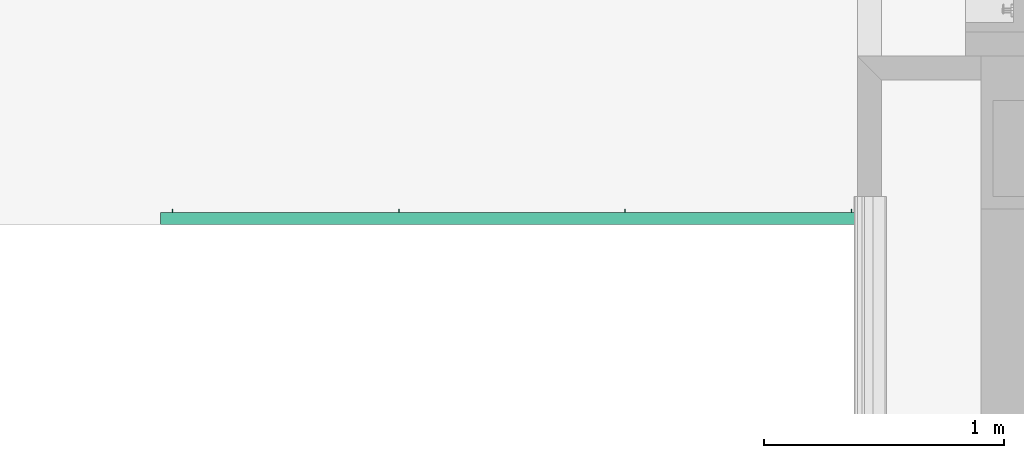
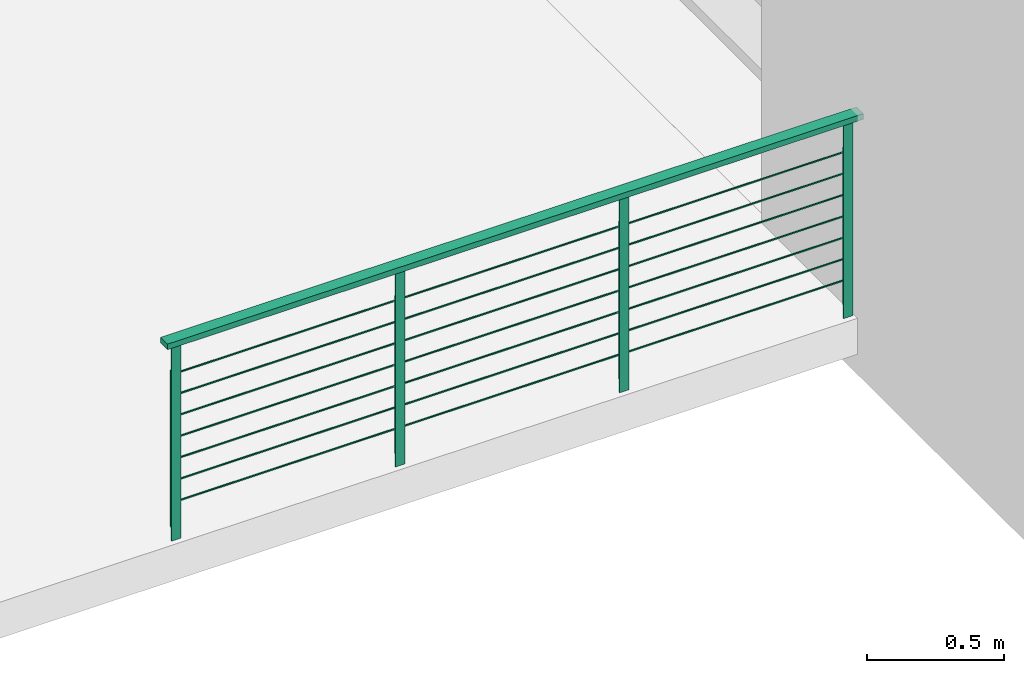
# One storey, part 16 of 26: 1 distribution element.
"""IFC2X3 building model written with IfcOpenShell, lengths in millimetres."""

from ifc_helpers import new_model, entity, si_unit, converted_unit, money_unit, direction, frame, origin_with_axes, place, context, subcontext, project, spatial, faceted_brep, material, type_object, element, save


model = new_model("IFC2X3")

# Units and contexts
model_context = context("Model", 3, precision=1e-05, world=origin_with_axes(), true_north=direction((0.0, 1.0)))
body_context = subcontext(model_context, "Body", "Model", "MODEL_VIEW")
ifc_project = project(units=[si_unit("LENGTHUNIT", "METRE", prefix="MILLI"), si_unit("AREAUNIT", "SQUARE_METRE"), si_unit("VOLUMEUNIT", "CUBIC_METRE"), converted_unit("PLANEANGLEUNIT", "DEGREE", entity("IfcPlaneAngleMeasure", 0.0174532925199), si_unit("PLANEANGLEUNIT", "RADIAN"), dimensions=[0, 0, 0, 0, 0, 0, 0]), si_unit("SOLIDANGLEUNIT", "STERADIAN"), money_unit("USD"), converted_unit("TIMEUNIT", "Year", entity("IfcTimeMeasure", 31556926.0), si_unit("TIMEUNIT", "SECOND"), dimensions=[0, 0, 0, 0, 0, 0, 0]), si_unit("MASSUNIT", "GRAM"), si_unit("THERMODYNAMICTEMPERATUREUNIT", "DEGREE_CELSIUS"), si_unit("LUMINOUSINTENSITYUNIT", "LUMEN")], contexts=[model_context])

# Site, building, storey
site_placement = place(None, origin_with_axes())
site = spatial("IfcSite", under=ifc_project, at=site_placement, Name="Grove Residential", CompositionType="ELEMENT")
building_placement = place(site_placement, origin_with_axes())
building = spatial("IfcBuilding", under=site, at=building_placement, Name="Building", CompositionType="ELEMENT")
storey_placement = place(building_placement, origin_with_axes())
storey = spatial("IfcBuildingStorey", under=building, at=storey_placement, Name="Ground Floor", CompositionType="ELEMENT", Elevation=0.0)

# Distribution element
ifc_material = material(Name="Background")
distribution_element_type = type_object("IfcDistributionElementType", Name="Rail Wired 02 20")
distribution_element_placement = place(storey_placement, frame((25.0, 1375.00009686, -50.0), z_axis=(0.0, 0.0, 1.0), x_axis=(-1.0, 0.0, 0.0)))
element("IfcDistributionElement", 1, at=distribution_element_placement, inside=storey, type_object=distribution_element_type, material=ifc_material, Name="FU - 001", context=body_context, shape_type="Brep", body=[
    faceted_brep([(0.0, 25.0, 875.0), (0.0, -25.0, 875.0), (0.0, -25.0, 900.0), (0.0, 25.0, 900.0), (2925.0, 25.0, 875.0), (2925.0, -25.0, 875.0), (2925.0, -25.0, 900.0), (2925.0, 25.0, 900.0)], [[[0, 1, 2, 3]], [[0, 4, 5, 1]], [[1, 5, 6, 2]], [[3, 2, 6, 7]], [[4, 0, 3, 7]], [[5, 4, 7, 6]]]),
    faceted_brep([(30.0, -2.0, 0.0), (70.0, -2.0, 0.0), (70.0, -2.0, 871.0), (30.0, -2.0, 871.0), (30.0, 2.0, 0.0), (70.0, 2.0, 0.0), (70.0, 2.0, 871.0), (30.0, 2.0, 871.0)], [[[0, 1, 2, 3]], [[0, 4, 5, 1]], [[1, 5, 6, 2]], [[3, 2, 6, 7]], [[4, 0, 3, 7]], [[5, 4, 7, 6]]]),
    faceted_brep([(52.0, -38.0, 36.0), (52.0, -38.0, 731.0), (48.0, -38.0, 731.0), (48.0, -38.0, 36.0), (52.0, -2.0, 0.0), (52.0, -2.0, 767.0), (48.0, -2.0, 767.0), (48.0, -2.0, 0.0)], [[[0, 1, 2, 3]], [[0, 4, 5, 1]], [[1, 5, 6, 2]], [[3, 2, 6, 7]], [[4, 0, 3, 7]], [[5, 4, 7, 6]]]),
    faceted_brep([(971.666666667, -2.0, 0.0), (1011.66666667, -2.0, 0.0), (1011.66666667, -2.0, 871.0), (971.666666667, -2.0, 871.0), (971.666666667, 2.0, 0.0), (1011.66666667, 2.0, 0.0), (1011.66666667, 2.0, 871.0), (971.666666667, 2.0, 871.0)], [[[0, 1, 2, 3]], [[0, 4, 5, 1]], [[1, 5, 6, 2]], [[3, 2, 6, 7]], [[4, 0, 3, 7]], [[5, 4, 7, 6]]]),
    faceted_brep([(993.666666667, -38.0, 36.0), (993.666666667, -38.0, 731.0), (989.666666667, -38.0, 731.0), (989.666666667, -38.0, 36.0), (993.666666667, -2.0, 0.0), (993.666666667, -2.0, 767.0), (989.666666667, -2.0, 767.0), (989.666666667, -2.0, 0.0)], [[[0, 1, 2, 3]], [[0, 4, 5, 1]], [[1, 5, 6, 2]], [[3, 2, 6, 7]], [[4, 0, 3, 7]], [[5, 4, 7, 6]]]),
    faceted_brep([(1913.33333333, -2.0, 0.0), (1953.33333333, -2.0, 0.0), (1953.33333333, -2.0, 871.0), (1913.33333333, -2.0, 871.0), (1913.33333333, 2.0, 0.0), (1953.33333333, 2.0, 0.0), (1953.33333333, 2.0, 871.0), (1913.33333333, 2.0, 871.0)], [[[0, 1, 2, 3]], [[0, 4, 5, 1]], [[1, 5, 6, 2]], [[3, 2, 6, 7]], [[4, 0, 3, 7]], [[5, 4, 7, 6]]]),
    faceted_brep([(1935.33333333, -38.0, 36.0), (1935.33333333, -38.0, 731.0), (1931.33333333, -38.0, 731.0), (1931.33333333, -38.0, 36.0), (1935.33333333, -2.0, 0.0), (1935.33333333, -2.0, 767.0), (1931.33333333, -2.0, 767.0), (1931.33333333, -2.0, 0.0)], [[[0, 1, 2, 3]], [[0, 4, 5, 1]], [[1, 5, 6, 2]], [[3, 2, 6, 7]], [[4, 0, 3, 7]], [[5, 4, 7, 6]]]),
    faceted_brep([(2855.0, -2.0, 0.0), (2895.0, -2.0, 0.0), (2895.0, -2.0, 871.0), (2855.0, -2.0, 871.0), (2855.0, 2.0, 0.0), (2895.0, 2.0, 0.0), (2895.0, 2.0, 871.0), (2855.0, 2.0, 871.0)], [[[0, 1, 2, 3]], [[0, 4, 5, 1]], [[1, 5, 6, 2]], [[3, 2, 6, 7]], [[4, 0, 3, 7]], [[5, 4, 7, 6]]]),
    faceted_brep([(2877.0, -38.0, 36.0), (2877.0, -38.0, 731.0), (2873.0, -38.0, 731.0), (2873.0, -38.0, 36.0), (2877.0, -2.0, 0.0), (2877.0, -2.0, 767.0), (2873.0, -2.0, 767.0), (2873.0, -2.0, 0.0)], [[[0, 1, 2, 3]], [[0, 4, 5, 1]], [[1, 5, 6, 2]], [[3, 2, 6, 7]], [[4, 0, 3, 7]], [[5, 4, 7, 6]]]),
    faceted_brep([(20.0, -15.0, 871.0), (80.0, -15.0, 871.0), (80.0, -15.0, 875.0), (20.0, -15.0, 875.0), (20.0, 15.0, 871.0), (80.0, 15.0, 871.0), (80.0, 15.0, 875.0), (20.0, 15.0, 875.0)], [[[0, 1, 2, 3]], [[0, 4, 5, 1]], [[1, 5, 6, 2]], [[3, 2, 6, 7]], [[4, 0, 3, 7]], [[5, 4, 7, 6]]]),
    faceted_brep([(961.666666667, -15.0, 871.0), (1021.66666667, -15.0, 871.0), (1021.66666667, -15.0, 875.0), (961.666666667, -15.0, 875.0), (961.666666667, 15.0, 871.0), (1021.66666667, 15.0, 871.0), (1021.66666667, 15.0, 875.0), (961.666666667, 15.0, 875.0)], [[[0, 1, 2, 3]], [[0, 4, 5, 1]], [[1, 5, 6, 2]], [[3, 2, 6, 7]], [[4, 0, 3, 7]], [[5, 4, 7, 6]]]),
    faceted_brep([(1903.33333333, -15.0, 871.0), (1963.33333333, -15.0, 871.0), (1963.33333333, -15.0, 875.0), (1903.33333333, -15.0, 875.0), (1903.33333333, 15.0, 871.0), (1963.33333333, 15.0, 871.0), (1963.33333333, 15.0, 875.0), (1903.33333333, 15.0, 875.0)], [[[0, 1, 2, 3]], [[0, 4, 5, 1]], [[1, 5, 6, 2]], [[3, 2, 6, 7]], [[4, 0, 3, 7]], [[5, 4, 7, 6]]]),
    faceted_brep([(2845.0, -15.0, 871.0), (2905.0, -15.0, 871.0), (2905.0, -15.0, 875.0), (2845.0, -15.0, 875.0), (2845.0, 15.0, 871.0), (2905.0, 15.0, 871.0), (2905.0, 15.0, 875.0), (2845.0, 15.0, 875.0)], [[[0, 1, 2, 3]], [[0, 4, 5, 1]], [[1, 5, 6, 2]], [[3, 2, 6, 7]], [[4, 0, 3, 7]], [[5, 4, 7, 6]]]),
    faceted_brep([(2855.0, -22.0, 155.0), (2855.0, -18.0, 155.0), (2875.0, -18.0, 155.0), (2875.0, -17.5, 155.0), (50.0, -17.5, 155.0), (50.0, -18.0, 155.0), (70.0, -18.0, 155.0), (70.0, -22.0, 155.0), (52.0, -22.0, 155.0), (52.0, -22.5, 155.0), (989.666666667, -22.5, 155.0), (989.666666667, -22.0, 155.0), (971.666666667, -22.0, 155.0), (971.666666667, -18.0, 155.0), (1011.66666667, -18.0, 155.0), (1011.66666667, -22.0, 155.0), (993.666666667, -22.0, 155.0), (993.666666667, -22.5, 155.0), (1931.33333333, -22.5, 155.0), (1931.33333333, -22.0, 155.0), (1913.33333333, -22.0, 155.0), (1913.33333333, -18.0, 155.0), (1953.33333333, -18.0, 155.0), (1953.33333333, -22.0, 155.0), (1935.33333333, -22.0, 155.0), (1935.33333333, -22.5, 155.0), (2873.0, -22.5, 155.0), (2873.0, -22.0, 155.0), (2855.0, -22.0, 150.0), (2855.0, -18.0, 150.0), (2875.0, -18.0, 150.0), (2875.0, -17.5, 150.0), (50.0, -17.5, 150.0), (50.0, -18.0, 150.0), (70.0, -18.0, 150.0), (70.0, -22.0, 150.0), (52.0, -22.0, 150.0), (52.0, -22.5, 150.0), (989.666666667, -22.5, 150.0), (989.666666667, -22.0, 150.0), (971.666666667, -22.0, 150.0), (971.666666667, -18.0, 150.0), (1011.66666667, -18.0, 150.0), (1011.66666667, -22.0, 150.0), (993.666666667, -22.0, 150.0), (993.666666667, -22.5, 150.0), (1931.33333333, -22.5, 150.0), (1931.33333333, -22.0, 150.0), (1913.33333333, -22.0, 150.0), (1913.33333333, -18.0, 150.0), (1953.33333333, -18.0, 150.0), (1953.33333333, -22.0, 150.0), (1935.33333333, -22.0, 150.0), (1935.33333333, -22.5, 150.0), (2873.0, -22.5, 150.0), (2873.0, -22.0, 150.0)], [[[0, 1, 2, 3, 4, 5, 6, 7, 8, 9, 10, 11, 12, 13, 14, 15, 16, 17, 18, 19, 20, 21, 22, 23, 24, 25, 26, 27]], [[1, 0, 28, 29]], [[30, 2, 1, 29]], [[2, 30, 31, 3]], [[3, 31, 32, 4]], [[33, 5, 4, 32]], [[6, 5, 33, 34]], [[7, 6, 34, 35]], [[36, 8, 7, 35]], [[9, 8, 36, 37]], [[38, 10, 9, 37]], [[39, 11, 10, 38]], [[11, 39, 40, 12]], [[13, 12, 40, 41]], [[14, 13, 41, 42]], [[15, 14, 42, 43]], [[44, 16, 15, 43]], [[17, 16, 44, 45]], [[46, 18, 17, 45]], [[47, 19, 18, 46]], [[19, 47, 48, 20]], [[21, 20, 48, 49]], [[22, 21, 49, 50]], [[23, 22, 50, 51]], [[52, 24, 23, 51]], [[25, 24, 52, 53]], [[25, 53, 54, 26]], [[55, 27, 26, 54]], [[0, 27, 55, 28]], [[28, 55, 54, 53, 52, 51, 50, 49, 48, 47, 46, 45, 44, 43, 42, 41, 40, 39, 38, 37, 36, 35, 34, 33, 32, 31, 30, 29]]]),
    faceted_brep([(2855.0, -22.0, 250.0), (2855.0, -18.0, 250.0), (2875.0, -18.0, 250.0), (2875.0, -17.5, 250.0), (50.0, -17.5, 250.0), (50.0, -18.0, 250.0), (70.0, -18.0, 250.0), (70.0, -22.0, 250.0), (52.0, -22.0, 250.0), (52.0, -22.5, 250.0), (989.666666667, -22.5, 250.0), (989.666666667, -22.0, 250.0), (971.666666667, -22.0, 250.0), (971.666666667, -18.0, 250.0), (1011.66666667, -18.0, 250.0), (1011.66666667, -22.0, 250.0), (993.666666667, -22.0, 250.0), (993.666666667, -22.5, 250.0), (1931.33333333, -22.5, 250.0), (1931.33333333, -22.0, 250.0), (1913.33333333, -22.0, 250.0), (1913.33333333, -18.0, 250.0), (1953.33333333, -18.0, 250.0), (1953.33333333, -22.0, 250.0), (1935.33333333, -22.0, 250.0), (1935.33333333, -22.5, 250.0), (2873.0, -22.5, 250.0), (2873.0, -22.0, 250.0), (2855.0, -22.0, 245.0), (2855.0, -18.0, 245.0), (2875.0, -18.0, 245.0), (2875.0, -17.5, 245.0), (50.0, -17.5, 245.0), (50.0, -18.0, 245.0), (70.0, -18.0, 245.0), (70.0, -22.0, 245.0), (52.0, -22.0, 245.0), (52.0, -22.5, 245.0), (989.666666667, -22.5, 245.0), (989.666666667, -22.0, 245.0), (971.666666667, -22.0, 245.0), (971.666666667, -18.0, 245.0), (1011.66666667, -18.0, 245.0), (1011.66666667, -22.0, 245.0), (993.666666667, -22.0, 245.0), (993.666666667, -22.5, 245.0), (1931.33333333, -22.5, 245.0), (1931.33333333, -22.0, 245.0), (1913.33333333, -22.0, 245.0), (1913.33333333, -18.0, 245.0), (1953.33333333, -18.0, 245.0), (1953.33333333, -22.0, 245.0), (1935.33333333, -22.0, 245.0), (1935.33333333, -22.5, 245.0), (2873.0, -22.5, 245.0), (2873.0, -22.0, 245.0)], [[[0, 1, 2, 3, 4, 5, 6, 7, 8, 9, 10, 11, 12, 13, 14, 15, 16, 17, 18, 19, 20, 21, 22, 23, 24, 25, 26, 27]], [[1, 0, 28, 29]], [[30, 2, 1, 29]], [[2, 30, 31, 3]], [[3, 31, 32, 4]], [[33, 5, 4, 32]], [[6, 5, 33, 34]], [[7, 6, 34, 35]], [[36, 8, 7, 35]], [[9, 8, 36, 37]], [[38, 10, 9, 37]], [[39, 11, 10, 38]], [[11, 39, 40, 12]], [[13, 12, 40, 41]], [[14, 13, 41, 42]], [[15, 14, 42, 43]], [[44, 16, 15, 43]], [[17, 16, 44, 45]], [[46, 18, 17, 45]], [[47, 19, 18, 46]], [[19, 47, 48, 20]], [[21, 20, 48, 49]], [[22, 21, 49, 50]], [[23, 22, 50, 51]], [[52, 24, 23, 51]], [[25, 24, 52, 53]], [[25, 53, 54, 26]], [[55, 27, 26, 54]], [[0, 27, 55, 28]], [[28, 55, 54, 53, 52, 51, 50, 49, 48, 47, 46, 45, 44, 43, 42, 41, 40, 39, 38, 37, 36, 35, 34, 33, 32, 31, 30, 29]]]),
    faceted_brep([(2855.0, -22.0, 345.0), (2855.0, -18.0, 345.0), (2875.0, -18.0, 345.0), (2875.0, -17.5, 345.0), (50.0, -17.5, 345.0), (50.0, -18.0, 345.0), (70.0, -18.0, 345.0), (70.0, -22.0, 345.0), (52.0, -22.0, 345.0), (52.0, -22.5, 345.0), (989.666666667, -22.5, 345.0), (989.666666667, -22.0, 345.0), (971.666666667, -22.0, 345.0), (971.666666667, -18.0, 345.0), (1011.66666667, -18.0, 345.0), (1011.66666667, -22.0, 345.0), (993.666666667, -22.0, 345.0), (993.666666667, -22.5, 345.0), (1931.33333333, -22.5, 345.0), (1931.33333333, -22.0, 345.0), (1913.33333333, -22.0, 345.0), (1913.33333333, -18.0, 345.0), (1953.33333333, -18.0, 345.0), (1953.33333333, -22.0, 345.0), (1935.33333333, -22.0, 345.0), (1935.33333333, -22.5, 345.0), (2873.0, -22.5, 345.0), (2873.0, -22.0, 345.0), (2855.0, -22.0, 340.0), (2855.0, -18.0, 340.0), (2875.0, -18.0, 340.0), (2875.0, -17.5, 340.0), (50.0, -17.5, 340.0), (50.0, -18.0, 340.0), (70.0, -18.0, 340.0), (70.0, -22.0, 340.0), (52.0, -22.0, 340.0), (52.0, -22.5, 340.0), (989.666666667, -22.5, 340.0), (989.666666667, -22.0, 340.0), (971.666666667, -22.0, 340.0), (971.666666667, -18.0, 340.0), (1011.66666667, -18.0, 340.0), (1011.66666667, -22.0, 340.0), (993.666666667, -22.0, 340.0), (993.666666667, -22.5, 340.0), (1931.33333333, -22.5, 340.0), (1931.33333333, -22.0, 340.0), (1913.33333333, -22.0, 340.0), (1913.33333333, -18.0, 340.0), (1953.33333333, -18.0, 340.0), (1953.33333333, -22.0, 340.0), (1935.33333333, -22.0, 340.0), (1935.33333333, -22.5, 340.0), (2873.0, -22.5, 340.0), (2873.0, -22.0, 340.0)], [[[0, 1, 2, 3, 4, 5, 6, 7, 8, 9, 10, 11, 12, 13, 14, 15, 16, 17, 18, 19, 20, 21, 22, 23, 24, 25, 26, 27]], [[1, 0, 28, 29]], [[30, 2, 1, 29]], [[2, 30, 31, 3]], [[3, 31, 32, 4]], [[33, 5, 4, 32]], [[6, 5, 33, 34]], [[7, 6, 34, 35]], [[36, 8, 7, 35]], [[9, 8, 36, 37]], [[38, 10, 9, 37]], [[39, 11, 10, 38]], [[11, 39, 40, 12]], [[13, 12, 40, 41]], [[14, 13, 41, 42]], [[15, 14, 42, 43]], [[44, 16, 15, 43]], [[17, 16, 44, 45]], [[46, 18, 17, 45]], [[47, 19, 18, 46]], [[19, 47, 48, 20]], [[21, 20, 48, 49]], [[22, 21, 49, 50]], [[23, 22, 50, 51]], [[52, 24, 23, 51]], [[25, 24, 52, 53]], [[25, 53, 54, 26]], [[55, 27, 26, 54]], [[0, 27, 55, 28]], [[28, 55, 54, 53, 52, 51, 50, 49, 48, 47, 46, 45, 44, 43, 42, 41, 40, 39, 38, 37, 36, 35, 34, 33, 32, 31, 30, 29]]]),
    faceted_brep([(2855.0, -22.0, 440.0), (2855.0, -18.0, 440.0), (2875.0, -18.0, 440.0), (2875.0, -17.5, 440.0), (50.0, -17.5, 440.0), (50.0, -18.0, 440.0), (70.0, -18.0, 440.0), (70.0, -22.0, 440.0), (52.0, -22.0, 440.0), (52.0, -22.5, 440.0), (989.666666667, -22.5, 440.0), (989.666666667, -22.0, 440.0), (971.666666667, -22.0, 440.0), (971.666666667, -18.0, 440.0), (1011.66666667, -18.0, 440.0), (1011.66666667, -22.0, 440.0), (993.666666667, -22.0, 440.0), (993.666666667, -22.5, 440.0), (1931.33333333, -22.5, 440.0), (1931.33333333, -22.0, 440.0), (1913.33333333, -22.0, 440.0), (1913.33333333, -18.0, 440.0), (1953.33333333, -18.0, 440.0), (1953.33333333, -22.0, 440.0), (1935.33333333, -22.0, 440.0), (1935.33333333, -22.5, 440.0), (2873.0, -22.5, 440.0), (2873.0, -22.0, 440.0), (2855.0, -22.0, 435.0), (2855.0, -18.0, 435.0), (2875.0, -18.0, 435.0), (2875.0, -17.5, 435.0), (50.0, -17.5, 435.0), (50.0, -18.0, 435.0), (70.0, -18.0, 435.0), (70.0, -22.0, 435.0), (52.0, -22.0, 435.0), (52.0, -22.5, 435.0), (989.666666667, -22.5, 435.0), (989.666666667, -22.0, 435.0), (971.666666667, -22.0, 435.0), (971.666666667, -18.0, 435.0), (1011.66666667, -18.0, 435.0), (1011.66666667, -22.0, 435.0), (993.666666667, -22.0, 435.0), (993.666666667, -22.5, 435.0), (1931.33333333, -22.5, 435.0), (1931.33333333, -22.0, 435.0), (1913.33333333, -22.0, 435.0), (1913.33333333, -18.0, 435.0), (1953.33333333, -18.0, 435.0), (1953.33333333, -22.0, 435.0), (1935.33333333, -22.0, 435.0), (1935.33333333, -22.5, 435.0), (2873.0, -22.5, 435.0), (2873.0, -22.0, 435.0)], [[[0, 1, 2, 3, 4, 5, 6, 7, 8, 9, 10, 11, 12, 13, 14, 15, 16, 17, 18, 19, 20, 21, 22, 23, 24, 25, 26, 27]], [[1, 0, 28, 29]], [[30, 2, 1, 29]], [[2, 30, 31, 3]], [[3, 31, 32, 4]], [[33, 5, 4, 32]], [[6, 5, 33, 34]], [[7, 6, 34, 35]], [[36, 8, 7, 35]], [[9, 8, 36, 37]], [[38, 10, 9, 37]], [[39, 11, 10, 38]], [[11, 39, 40, 12]], [[13, 12, 40, 41]], [[14, 13, 41, 42]], [[15, 14, 42, 43]], [[44, 16, 15, 43]], [[17, 16, 44, 45]], [[46, 18, 17, 45]], [[47, 19, 18, 46]], [[19, 47, 48, 20]], [[21, 20, 48, 49]], [[22, 21, 49, 50]], [[23, 22, 50, 51]], [[52, 24, 23, 51]], [[25, 24, 52, 53]], [[25, 53, 54, 26]], [[55, 27, 26, 54]], [[0, 27, 55, 28]], [[28, 55, 54, 53, 52, 51, 50, 49, 48, 47, 46, 45, 44, 43, 42, 41, 40, 39, 38, 37, 36, 35, 34, 33, 32, 31, 30, 29]]]),
    faceted_brep([(2855.0, -22.0, 535.0), (2855.0, -18.0, 535.0), (2875.0, -18.0, 535.0), (2875.0, -17.5, 535.0), (50.0, -17.5, 535.0), (50.0, -18.0, 535.0), (70.0, -18.0, 535.0), (70.0, -22.0, 535.0), (52.0, -22.0, 535.0), (52.0, -22.5, 535.0), (989.666666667, -22.5, 535.0), (989.666666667, -22.0, 535.0), (971.666666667, -22.0, 535.0), (971.666666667, -18.0, 535.0), (1011.66666667, -18.0, 535.0), (1011.66666667, -22.0, 535.0), (993.666666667, -22.0, 535.0), (993.666666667, -22.5, 535.0), (1931.33333333, -22.5, 535.0), (1931.33333333, -22.0, 535.0), (1913.33333333, -22.0, 535.0), (1913.33333333, -18.0, 535.0), (1953.33333333, -18.0, 535.0), (1953.33333333, -22.0, 535.0), (1935.33333333, -22.0, 535.0), (1935.33333333, -22.5, 535.0), (2873.0, -22.5, 535.0), (2873.0, -22.0, 535.0), (2855.0, -22.0, 530.0), (2855.0, -18.0, 530.0), (2875.0, -18.0, 530.0), (2875.0, -17.5, 530.0), (50.0, -17.5, 530.0), (50.0, -18.0, 530.0), (70.0, -18.0, 530.0), (70.0, -22.0, 530.0), (52.0, -22.0, 530.0), (52.0, -22.5, 530.0), (989.666666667, -22.5, 530.0), (989.666666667, -22.0, 530.0), (971.666666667, -22.0, 530.0), (971.666666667, -18.0, 530.0), (1011.66666667, -18.0, 530.0), (1011.66666667, -22.0, 530.0), (993.666666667, -22.0, 530.0), (993.666666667, -22.5, 530.0), (1931.33333333, -22.5, 530.0), (1931.33333333, -22.0, 530.0), (1913.33333333, -22.0, 530.0), (1913.33333333, -18.0, 530.0), (1953.33333333, -18.0, 530.0), (1953.33333333, -22.0, 530.0), (1935.33333333, -22.0, 530.0), (1935.33333333, -22.5, 530.0), (2873.0, -22.5, 530.0), (2873.0, -22.0, 530.0)], [[[0, 1, 2, 3, 4, 5, 6, 7, 8, 9, 10, 11, 12, 13, 14, 15, 16, 17, 18, 19, 20, 21, 22, 23, 24, 25, 26, 27]], [[1, 0, 28, 29]], [[30, 2, 1, 29]], [[2, 30, 31, 3]], [[3, 31, 32, 4]], [[33, 5, 4, 32]], [[6, 5, 33, 34]], [[7, 6, 34, 35]], [[36, 8, 7, 35]], [[9, 8, 36, 37]], [[38, 10, 9, 37]], [[39, 11, 10, 38]], [[11, 39, 40, 12]], [[13, 12, 40, 41]], [[14, 13, 41, 42]], [[15, 14, 42, 43]], [[44, 16, 15, 43]], [[17, 16, 44, 45]], [[46, 18, 17, 45]], [[47, 19, 18, 46]], [[19, 47, 48, 20]], [[21, 20, 48, 49]], [[22, 21, 49, 50]], [[23, 22, 50, 51]], [[52, 24, 23, 51]], [[25, 24, 52, 53]], [[25, 53, 54, 26]], [[55, 27, 26, 54]], [[0, 27, 55, 28]], [[28, 55, 54, 53, 52, 51, 50, 49, 48, 47, 46, 45, 44, 43, 42, 41, 40, 39, 38, 37, 36, 35, 34, 33, 32, 31, 30, 29]]]),
    faceted_brep([(2855.0, -22.0, 630.0), (2855.0, -18.0, 630.0), (2875.0, -18.0, 630.0), (2875.0, -17.5, 630.0), (50.0, -17.5, 630.0), (50.0, -18.0, 630.0), (70.0, -18.0, 630.0), (70.0, -22.0, 630.0), (52.0, -22.0, 630.0), (52.0, -22.5, 630.0), (989.666666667, -22.5, 630.0), (989.666666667, -22.0, 630.0), (971.666666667, -22.0, 630.0), (971.666666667, -18.0, 630.0), (1011.66666667, -18.0, 630.0), (1011.66666667, -22.0, 630.0), (993.666666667, -22.0, 630.0), (993.666666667, -22.5, 630.0), (1931.33333333, -22.5, 630.0), (1931.33333333, -22.0, 630.0), (1913.33333333, -22.0, 630.0), (1913.33333333, -18.0, 630.0), (1953.33333333, -18.0, 630.0), (1953.33333333, -22.0, 630.0), (1935.33333333, -22.0, 630.0), (1935.33333333, -22.5, 630.0), (2873.0, -22.5, 630.0), (2873.0, -22.0, 630.0), (2855.0, -22.0, 625.0), (2855.0, -18.0, 625.0), (2875.0, -18.0, 625.0), (2875.0, -17.5, 625.0), (50.0, -17.5, 625.0), (50.0, -18.0, 625.0), (70.0, -18.0, 625.0), (70.0, -22.0, 625.0), (52.0, -22.0, 625.0), (52.0, -22.5, 625.0), (989.666666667, -22.5, 625.0), (989.666666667, -22.0, 625.0), (971.666666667, -22.0, 625.0), (971.666666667, -18.0, 625.0), (1011.66666667, -18.0, 625.0), (1011.66666667, -22.0, 625.0), (993.666666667, -22.0, 625.0), (993.666666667, -22.5, 625.0), (1931.33333333, -22.5, 625.0), (1931.33333333, -22.0, 625.0), (1913.33333333, -22.0, 625.0), (1913.33333333, -18.0, 625.0), (1953.33333333, -18.0, 625.0), (1953.33333333, -22.0, 625.0), (1935.33333333, -22.0, 625.0), (1935.33333333, -22.5, 625.0), (2873.0, -22.5, 625.0), (2873.0, -22.0, 625.0)], [[[0, 1, 2, 3, 4, 5, 6, 7, 8, 9, 10, 11, 12, 13, 14, 15, 16, 17, 18, 19, 20, 21, 22, 23, 24, 25, 26, 27]], [[1, 0, 28, 29]], [[30, 2, 1, 29]], [[2, 30, 31, 3]], [[3, 31, 32, 4]], [[33, 5, 4, 32]], [[6, 5, 33, 34]], [[7, 6, 34, 35]], [[36, 8, 7, 35]], [[9, 8, 36, 37]], [[38, 10, 9, 37]], [[39, 11, 10, 38]], [[11, 39, 40, 12]], [[13, 12, 40, 41]], [[14, 13, 41, 42]], [[15, 14, 42, 43]], [[44, 16, 15, 43]], [[17, 16, 44, 45]], [[46, 18, 17, 45]], [[47, 19, 18, 46]], [[19, 47, 48, 20]], [[21, 20, 48, 49]], [[22, 21, 49, 50]], [[23, 22, 50, 51]], [[52, 24, 23, 51]], [[25, 24, 52, 53]], [[25, 53, 54, 26]], [[55, 27, 26, 54]], [[0, 27, 55, 28]], [[28, 55, 54, 53, 52, 51, 50, 49, 48, 47, 46, 45, 44, 43, 42, 41, 40, 39, 38, 37, 36, 35, 34, 33, 32, 31, 30, 29]]]),
    faceted_brep([(2855.0, -22.0, 725.0), (2855.0, -18.0, 725.0), (2875.0, -18.0, 725.0), (2875.0, -17.5, 725.0), (50.0, -17.5, 725.0), (50.0, -18.0, 725.0), (70.0, -18.0, 725.0), (70.0, -22.0, 725.0), (52.0, -22.0, 725.0), (52.0, -22.5, 725.0), (989.666666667, -22.5, 725.0), (989.666666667, -22.0, 725.0), (971.666666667, -22.0, 725.0), (971.666666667, -18.0, 725.0), (1011.66666667, -18.0, 725.0), (1011.66666667, -22.0, 725.0), (993.666666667, -22.0, 725.0), (993.666666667, -22.5, 725.0), (1931.33333333, -22.5, 725.0), (1931.33333333, -22.0, 725.0), (1913.33333333, -22.0, 725.0), (1913.33333333, -18.0, 725.0), (1953.33333333, -18.0, 725.0), (1953.33333333, -22.0, 725.0), (1935.33333333, -22.0, 725.0), (1935.33333333, -22.5, 725.0), (2873.0, -22.5, 725.0), (2873.0, -22.0, 725.0), (2855.0, -22.0, 720.0), (2855.0, -18.0, 720.0), (2875.0, -18.0, 720.0), (2875.0, -17.5, 720.0), (50.0, -17.5, 720.0), (50.0, -18.0, 720.0), (70.0, -18.0, 720.0), (70.0, -22.0, 720.0), (52.0, -22.0, 720.0), (52.0, -22.5, 720.0), (989.666666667, -22.5, 720.0), (989.666666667, -22.0, 720.0), (971.666666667, -22.0, 720.0), (971.666666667, -18.0, 720.0), (1011.66666667, -18.0, 720.0), (1011.66666667, -22.0, 720.0), (993.666666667, -22.0, 720.0), (993.666666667, -22.5, 720.0), (1931.33333333, -22.5, 720.0), (1931.33333333, -22.0, 720.0), (1913.33333333, -22.0, 720.0), (1913.33333333, -18.0, 720.0), (1953.33333333, -18.0, 720.0), (1953.33333333, -22.0, 720.0), (1935.33333333, -22.0, 720.0), (1935.33333333, -22.5, 720.0), (2873.0, -22.5, 720.0), (2873.0, -22.0, 720.0)], [[[0, 1, 2, 3, 4, 5, 6, 7, 8, 9, 10, 11, 12, 13, 14, 15, 16, 17, 18, 19, 20, 21, 22, 23, 24, 25, 26, 27]], [[1, 0, 28, 29]], [[30, 2, 1, 29]], [[2, 30, 31, 3]], [[3, 31, 32, 4]], [[33, 5, 4, 32]], [[6, 5, 33, 34]], [[7, 6, 34, 35]], [[36, 8, 7, 35]], [[9, 8, 36, 37]], [[38, 10, 9, 37]], [[39, 11, 10, 38]], [[11, 39, 40, 12]], [[13, 12, 40, 41]], [[14, 13, 41, 42]], [[15, 14, 42, 43]], [[44, 16, 15, 43]], [[17, 16, 44, 45]], [[46, 18, 17, 45]], [[47, 19, 18, 46]], [[19, 47, 48, 20]], [[21, 20, 48, 49]], [[22, 21, 49, 50]], [[23, 22, 50, 51]], [[52, 24, 23, 51]], [[25, 24, 52, 53]], [[25, 53, 54, 26]], [[55, 27, 26, 54]], [[0, 27, 55, 28]], [[28, 55, 54, 53, 52, 51, 50, 49, 48, 47, 46, 45, 44, 43, 42, 41, 40, 39, 38, 37, 36, 35, 34, 33, 32, 31, 30, 29]]]),
])

save(model, "model.ifc")
